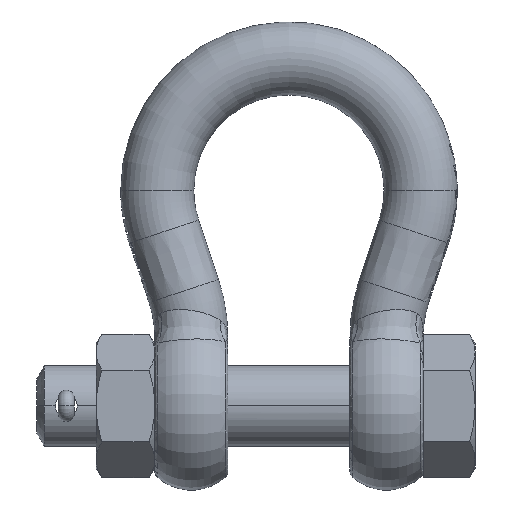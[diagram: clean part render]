
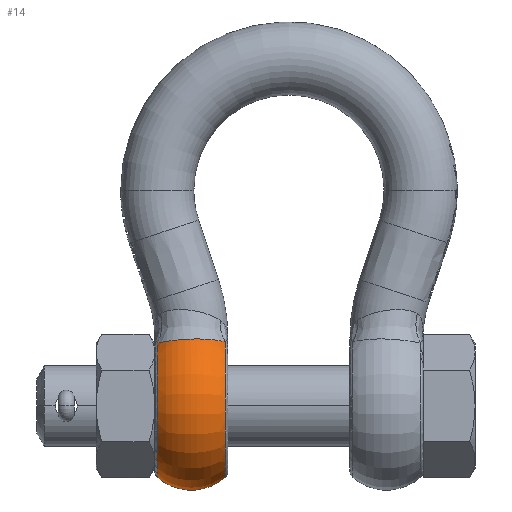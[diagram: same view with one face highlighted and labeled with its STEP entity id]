
A CAD part, top view. The second image highlights one B-rep face of the part: STEP entity #14.
In plain terms, the highlighted toroidal (fillet/blend) face has major radius 4.5 mm and minor radius 7 mm.
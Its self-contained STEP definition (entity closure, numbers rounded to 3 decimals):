
#14 = ADVANCED_FACE ( 'NONE', ( #4941 ), #8911, .T. ) ;
#50 = B_SPLINE_CURVE_WITH_KNOTS ( 'NONE', 3,
 ( #14556, #8761, #12267, #8859, #9928, #5324, #8808, #3032, #5368, #1899, #3080, #10023, #11191, #14703, #759, #4410, #5566, #9059, #11340, #10173, #5467, #13629, #806, #915, #13727, #3178 ),
 .UNSPECIFIED., .F., .F.,
 ( 4, 2, 2, 2, 2, 2, 2, 2, 2, 2, 2, 2, 4 ),
 ( 0., 0.125, 0.188, 0.25, 0.375, 0.438, 0.5, 0.563, 0.625, 0.75, 0.813, 0.875, 1. ),
 .UNSPECIFIED. ) ;
#83 = CARTESIAN_POINT ( 'NONE',  ( -18.017, 0., 0. ) ) ;
#229 = EDGE_CURVE ( 'NONE', #13800, #5390, #1461, .T. ) ;
#289 = DIRECTION ( 'NONE',  ( 0., -1., 0. ) ) ;
#759 = CARTESIAN_POINT ( 'NONE',  ( -12.843, 9.162, 6.926 ) ) ;
#806 = CARTESIAN_POINT ( 'NONE',  ( -9.757, 8.966, 5.487 ) ) ;
#915 = CARTESIAN_POINT ( 'NONE',  ( -9.253, 8.884, 4.997 ) ) ;
#1326 = CARTESIAN_POINT ( 'NONE',  ( -18.017, 8.577, 4.569 ) ) ;
#1461 = CIRCLE ( 'NONE', #8174, 9.717 ) ;
#1899 = CARTESIAN_POINT ( 'NONE',  ( -14.423, 9.095, 6.908 ) ) ;
#2021 = AXIS2_PLACEMENT_3D ( 'NONE', #12696, #9149, #3419 ) ;
#2215 = ORIENTED_EDGE ( 'NONE', *, *, #14609, .F. ) ;
#2601 = DIRECTION ( 'NONE',  ( -1., 0., 0. ) ) ;
#3032 = CARTESIAN_POINT ( 'NONE',  ( -15.517, 8.994, 6.626 ) ) ;
#3080 = CARTESIAN_POINT ( 'NONE',  ( -14.196, 9.111, 6.939 ) ) ;
#3178 = CARTESIAN_POINT ( 'NONE',  ( -8.683, 8.76, 4.207 ) ) ;
#3419 = DIRECTION ( 'NONE',  ( 0., 1., 0. ) ) ;
#3577 = CARTESIAN_POINT ( 'NONE',  ( -8.683, 0., 0. ) ) ;
#3998 = VERTEX_POINT ( 'NONE', #14040 ) ;
#4410 = CARTESIAN_POINT ( 'NONE',  ( -12.394, 9.162, 6.847 ) ) ;
#4941 = FACE_OUTER_BOUND ( 'NONE', #13475, .T. ) ;
#5324 = CARTESIAN_POINT ( 'NONE',  ( -16.334, 8.885, 6.204 ) ) ;
#5368 = CARTESIAN_POINT ( 'NONE',  ( -15.09, 9.041, 6.772 ) ) ;
#5390 = VERTEX_POINT ( 'NONE', #7119 ) ;
#5467 = CARTESIAN_POINT ( 'NONE',  ( -10.303, 9.038, 5.923 ) ) ;
#5566 = CARTESIAN_POINT ( 'NONE',  ( -12.169, 9.159, 6.793 ) ) ;
#5926 = DIRECTION ( 'NONE',  ( 0., 1., 0. ) ) ;
#6459 = VERTEX_POINT ( 'NONE', #1326 ) ;
#7119 = CARTESIAN_POINT ( 'NONE',  ( -8.683, -9.717, 0. ) ) ;
#7981 = CIRCLE ( 'NONE', #2021, 7. ) ;
#8174 = AXIS2_PLACEMENT_3D ( 'NONE', #3577, #8301, #5926 ) ;
#8301 = DIRECTION ( 'NONE',  ( 1., 0., 0. ) ) ;
#8526 = DIRECTION ( 'NONE',  ( 0., 1., 0. ) ) ;
#8621 = CARTESIAN_POINT ( 'NONE',  ( -13.35, 0., 0. ) ) ;
#8742 = CARTESIAN_POINT ( 'NONE',  ( -8.683, 8.76, 4.207 ) ) ;
#8761 = CARTESIAN_POINT ( 'NONE',  ( -17.74, 8.638, 4.98 ) ) ;
#8808 = CARTESIAN_POINT ( 'NONE',  ( -16.133, 8.914, 6.321 ) ) ;
#8859 = CARTESIAN_POINT ( 'NONE',  ( -16.899, 8.795, 5.805 ) ) ;
#8911 = TOROIDAL_SURFACE ( 'NONE', #9429, 4.5, 7. ) ;
#9059 = CARTESIAN_POINT ( 'NONE',  ( -11.514, 9.14, 6.593 ) ) ;
#9149 = DIRECTION ( 'NONE',  ( 0., 0., -1. ) ) ;
#9234 = ORIENTED_EDGE ( 'NONE', *, *, #12639, .F. ) ;
#9429 = AXIS2_PLACEMENT_3D ( 'NONE', #8621, #2601, #8526 ) ;
#9660 = CIRCLE ( 'NONE', #11550, 9.717 ) ;
#9853 = EDGE_CURVE ( 'NONE', #3998, #6459, #9660, .T. ) ;
#9928 = CARTESIAN_POINT ( 'NONE',  ( -16.716, 8.825, 5.946 ) ) ;
#10023 = CARTESIAN_POINT ( 'NONE',  ( -13.744, 9.136, 6.972 ) ) ;
#10173 = CARTESIAN_POINT ( 'NONE',  ( -10.498, 9.06, 6.055 ) ) ;
#11191 = CARTESIAN_POINT ( 'NONE',  ( -13.518, 9.146, 6.974 ) ) ;
#11340 = CARTESIAN_POINT ( 'NONE',  ( -11.096, 9.115, 6.409 ) ) ;
#11550 = AXIS2_PLACEMENT_3D ( 'NONE', #83, #14231, #289 ) ;
#12267 = CARTESIAN_POINT ( 'NONE',  ( -17.422, 8.702, 5.342 ) ) ;
#12639 = EDGE_CURVE ( 'NONE', #5390, #3998, #7981, .T. ) ;
#12696 = CARTESIAN_POINT ( 'NONE',  ( -13.35, -4.5, 0. ) ) ;
#13475 = EDGE_LOOP ( 'NONE', ( #9234, #15113, #2215, #13872 ) ) ;
#13629 = CARTESIAN_POINT ( 'NONE',  ( -9.933, 8.992, 5.639 ) ) ;
#13727 = CARTESIAN_POINT ( 'NONE',  ( -8.951, 8.823, 4.627 ) ) ;
#13800 = VERTEX_POINT ( 'NONE', #8742 ) ;
#13872 = ORIENTED_EDGE ( 'NONE', *, *, #9853, .F. ) ;
#14040 = CARTESIAN_POINT ( 'NONE',  ( -18.017, -9.717, 0. ) ) ;
#14231 = DIRECTION ( 'NONE',  ( -1., 0., 0. ) ) ;
#14556 = CARTESIAN_POINT ( 'NONE',  ( -18.017, 8.577, 4.569 ) ) ;
#14609 = EDGE_CURVE ( 'NONE', #6459, #13800, #50, .T. ) ;
#14703 = CARTESIAN_POINT ( 'NONE',  ( -13.067, 9.159, 6.951 ) ) ;
#15113 = ORIENTED_EDGE ( 'NONE', *, *, #229, .F. ) ;
